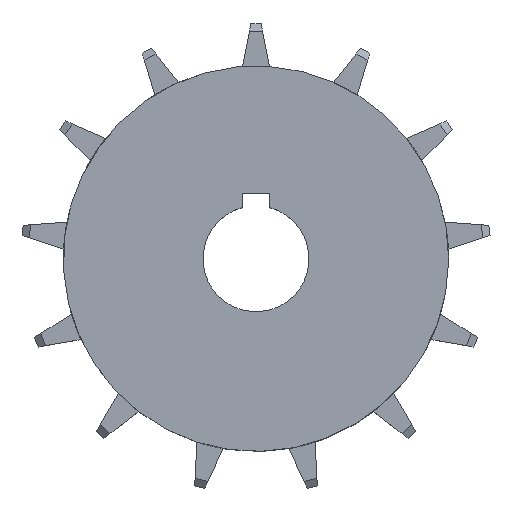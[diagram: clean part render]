
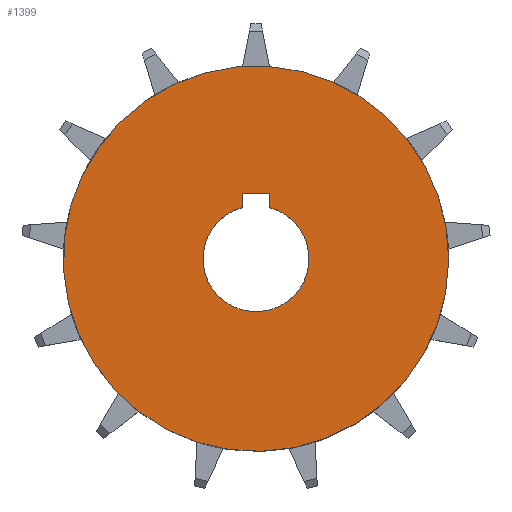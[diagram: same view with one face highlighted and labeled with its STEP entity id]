
A CAD part, top view. The second image highlights one B-rep face of the part: STEP entity #1399.
In plain terms, the highlighted planar face has unit normal (0, 0, 1).
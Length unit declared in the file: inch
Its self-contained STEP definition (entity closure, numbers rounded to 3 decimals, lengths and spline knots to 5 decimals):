
#2=CARTESIAN_POINT('',(0.,0.,0.));
#3=DIRECTION('',(0.,0.,1.));
#4=DIRECTION('',(0.663,0.749,0.));
#5=AXIS2_PLACEMENT_3D('',#2,#3,#4);
#7=DIRECTION('',(0.,-1.,0.));
#8=VECTOR('',#7,0.1875);
#9=CARTESIAN_POINT('',(0.1875,0.88136,0.));
#10=LINE('',#9,#8);
#11=DIRECTION('',(1.,0.,0.));
#12=VECTOR('',#11,0.375);
#13=CARTESIAN_POINT('',(-0.1875,0.88136,0.));
#14=LINE('',#13,#12);
#15=DIRECTION('',(0.,1.,0.));
#16=VECTOR('',#15,0.1875);
#17=CARTESIAN_POINT('',(-0.1875,0.69386,0.));
#18=LINE('',#17,#16);
#19=CARTESIAN_POINT('',(0.,0.,0.));
#20=DIRECTION('',(0.,0.,-1.));
#21=DIRECTION('',(0.261,0.965,0.));
#22=AXIS2_PLACEMENT_3D('',#19,#20,#21);
#240=CARTESIAN_POINT('',(0.,0.,0.));
#241=DIRECTION('',(0.,0.,1.));
#242=DIRECTION('',(0.239,0.971,0.));
#243=AXIS2_PLACEMENT_3D('',#240,#241,#242);
#1051=CARTESIAN_POINT('',(0.62527,2.53681,0.));
#1053=VERTEX_POINT('',#1051);
#1055=CARTESIAN_POINT('',(1.73256,1.95565,0.));
#1057=VERTEX_POINT('',#1055);
#1362=CARTESIAN_POINT('',(0.1875,0.88136,0.));
#1363=CARTESIAN_POINT('',(0.1875,0.69386,0.));
#1364=VERTEX_POINT('',#1362);
#1365=VERTEX_POINT('',#1363);
#1366=CARTESIAN_POINT('',(-0.1875,0.69386,0.));
#1367=VERTEX_POINT('',#1366);
#1368=CARTESIAN_POINT('',(-0.1875,0.88136,0.));
#1369=VERTEX_POINT('',#1368);
#1378=CARTESIAN_POINT('',(0.,0.,0.));
#1379=DIRECTION('',(0.,0.,1.));
#1380=DIRECTION('',(1.,0.,0.));
#1381=AXIS2_PLACEMENT_3D('',#1378,#1379,#1380);
#1382=PLANE('',#1381);
#1384=ORIENTED_EDGE('',*,*,#1383,.F.);
#1386=ORIENTED_EDGE('',*,*,#1385,.F.);
#1387=EDGE_LOOP('',(#1384,#1386));
#1388=FACE_OUTER_BOUND('',#1387,.F.);
#1390=ORIENTED_EDGE('',*,*,#1389,.F.);
#1392=ORIENTED_EDGE('',*,*,#1391,.F.);
#1394=ORIENTED_EDGE('',*,*,#1393,.F.);
#1396=ORIENTED_EDGE('',*,*,#1395,.F.);
#1397=EDGE_LOOP('',(#1390,#1392,#1394,#1396));
#1398=FACE_BOUND('',#1397,.F.);
#1399=ADVANCED_FACE('',(#1388,#1398),#1382,.T.);
#6=CIRCLE('',#5,2.61273);
#23=CIRCLE('',#22,0.71875);
#244=CIRCLE('',#243,2.61273);
#1383=EDGE_CURVE('',#1053,#1057,#244,.T.);
#1385=EDGE_CURVE('',#1057,#1053,#6,.T.);
#1389=EDGE_CURVE('',#1364,#1365,#10,.T.);
#1391=EDGE_CURVE('',#1369,#1364,#14,.T.);
#1393=EDGE_CURVE('',#1367,#1369,#18,.T.);
#1395=EDGE_CURVE('',#1365,#1367,#23,.T.);
